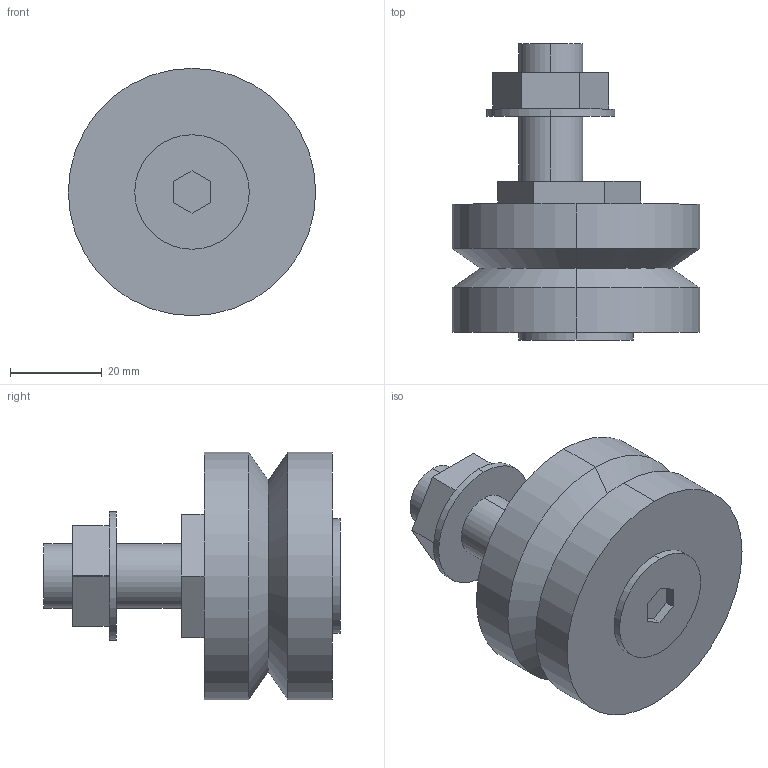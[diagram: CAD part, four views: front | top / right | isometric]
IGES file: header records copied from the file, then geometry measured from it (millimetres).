
Start section: 3D InterOp IGES (v. 2019 1.0.2), Spatial Corp. Copyright (c) 1999-2017.
Global section: file name: LJ 54 DE.igs; native system: Spatial Corp.; preprocessor: 3D InterOp GENERIC/IGES 3.0; author: Noname; organization: Noname; date: 20220628.165354; units: millimetre
Bounding box: 54 x 64.7 x 54 mm (x, y, z)
Surface area: 13414.4 mm2 (no closed solid volume)
Topology: 0 solids, 0 shells, 50 faces, 228 edges, 228 vertices
Faces by surface type: extrusion 34, revolution 16
